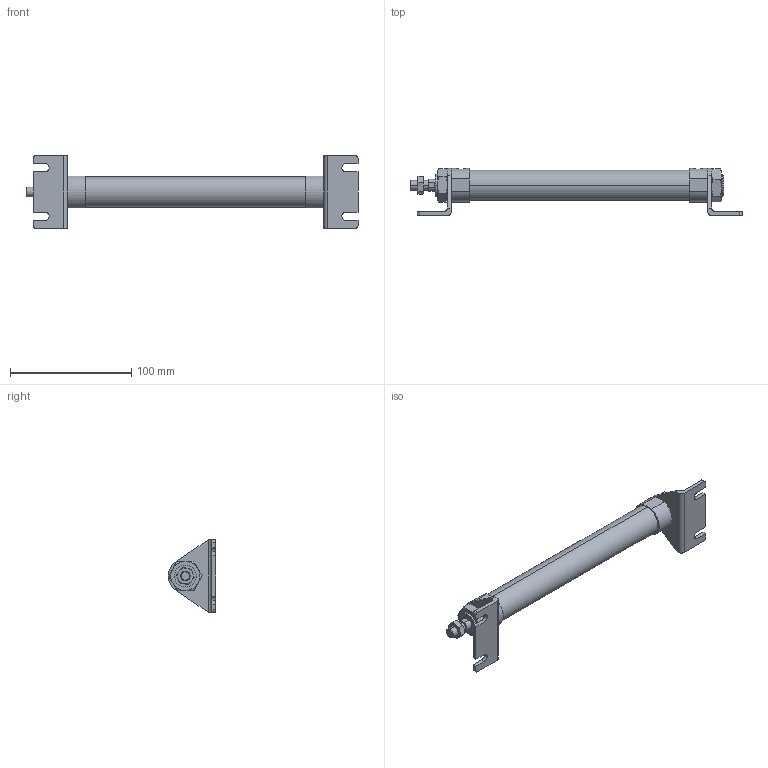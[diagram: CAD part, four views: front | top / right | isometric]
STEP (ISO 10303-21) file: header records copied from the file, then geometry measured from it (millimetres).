
FILE_DESCRIPTION (( 'STEP AP203' ), '1' );
FILE_NAME ('J#2-20-150-L.STEP', '2016-03-10T00:51:48', ( '' ), ( '' ), 'SwSTEP 2.0', 'SolidWorks 2014', '' );
FILE_SCHEMA (( 'CONFIG_CONTROL_DESIGN' ));
Length unit declared in the file: millimetre
Products named in the file (5): J#2-20-150-L; J#2-20-150; J#2-20-L
Assembly tree (6 placements, depth 2):
  J#2-20-150-L
    J#2-20-150
    (unnamed)
    (unnamed)  x2
    J#2-20-L  x2
Bounding box: 274.2 x 39 x 60 mm (x, y, z)
Volume: 135611.4 mm3; surface area: 37064.6 mm2
Topology: 6 solids, 6 shells, 168 faces, 392 edges, 246 vertices
Faces by surface type: plane 74, cylinder 52, torus 36, cone 6
Entity records: 4278 total; most frequent: CARTESIAN_POINT 1025, DIRECTION 577, ORIENTED_EDGE 542, EDGE_CURVE 271, AXIS2_PLACEMENT_3D 234, VERTEX_POINT 170, EDGE_LOOP 135, ADVANCED_FACE 119
